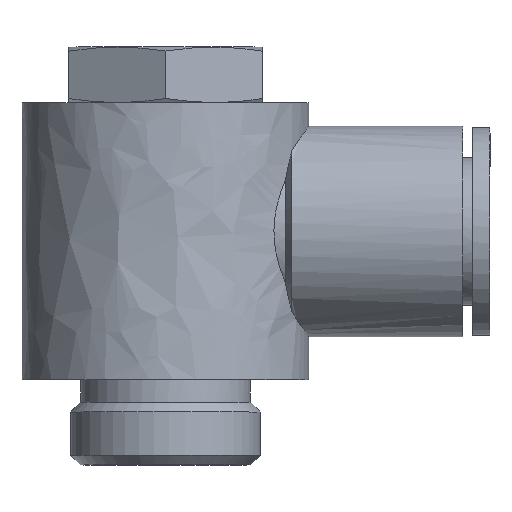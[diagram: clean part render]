
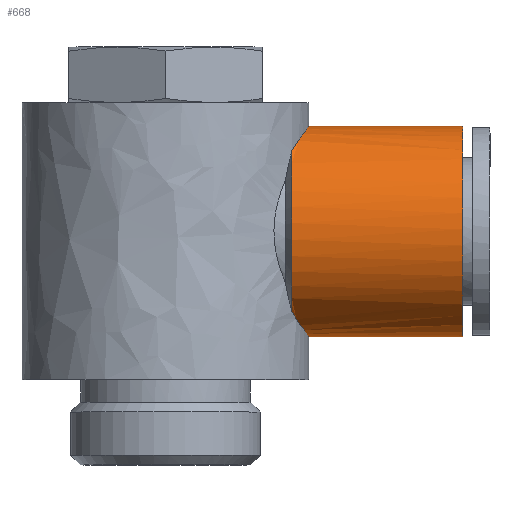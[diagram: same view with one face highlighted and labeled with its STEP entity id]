
A CAD part, top view. The second image highlights one B-rep face of the part: STEP entity #668.
In plain terms, the highlighted free-form (B-spline) face has degree [1, 3] with [2, 4] control points.
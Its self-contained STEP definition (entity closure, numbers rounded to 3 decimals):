
#10 = CARTESIAN_POINT ( 'NONE',  ( 12.116, 21.579, 3.459 ) ) ;
#30 = CARTESIAN_POINT ( 'NONE',  ( 11.773, 4.913, 4.491 ) ) ;
#143 = CARTESIAN_POINT ( 'NONE',  ( 12.054, 21.491, 3.674 ) ) ;
#155 = CARTESIAN_POINT ( 'NONE',  ( 12.142, 21.616, 3.366 ) ) ;
#164 = CARTESIAN_POINT ( 'NONE',  ( 11.1, 20.072, 5.962 ) ) ;
#176 = EDGE_CURVE ( 'NONE', #1003, #422, #725, .T. ) ;
#182 = CARTESIAN_POINT ( 'NONE',  ( 12.289, 4.178, 2.786 ) ) ;
#191 = CARTESIAN_POINT ( 'NONE',  ( 12.564, 3.799, 1.103 ) ) ;
#213 = CARTESIAN_POINT ( 'NONE',  ( 11.513, 5.294, 5.143 ) ) ;
#224 = CARTESIAN_POINT ( 'NONE',  ( 11.85, 4.8, 4.285 ) ) ;
#267 = CARTESIAN_POINT ( 'NONE',  ( 11.674, 20.942, 4.742 ) ) ;
#346 = CARTESIAN_POINT ( 'NONE',  ( 11.1, 20.072, 5.962 ) ) ;
#355 = CARTESIAN_POINT ( 'NONE',  ( 11.1, 22.25, 0. ) ) ;
#359 = B_SPLINE_CURVE_WITH_KNOTS ( 'NONE', 3,
 ( #1052, #1783, #191, #498, #788, #1043, #182, #1345, #1356, #1652, #1517, #944, #1214, #1224, #224, #30, #1641, #1674, #912, #213, #756, #923 ),
 .UNSPECIFIED., .F., .F.,
 ( 4, 2, 2, 1, 1, 2, 2, 2, 1, 1, 2, 2, 4 ),
 ( 0., 0.25, 0.375, 0.437, 0.469, 0.484, 0.5, 0.625, 0.687, 0.719, 0.734, 0.75, 1. ),
 .UNSPECIFIED. ) ;
#384 = CARTESIAN_POINT ( 'NONE',  ( 12.6, 22.25, 0. ) ) ;
#391 = EDGE_CURVE ( 'NONE', #578, #1550, #896, .T. ) ;
#394 = VERTEX_POINT ( 'NONE', #1547 ) ;
#422 = VERTEX_POINT ( 'NONE', #1651 ) ;
#424 = CARTESIAN_POINT ( 'NONE',  ( 11.461, 20.627, 5.236 ) ) ;
#458 = CARTESIAN_POINT ( 'NONE',  ( 26.1, 3.75, 18.5 ) ) ;
#485 = CARTESIAN_POINT ( 'NONE',  ( 11.1, 20.072, 5.962 ) ) ;
#498 = CARTESIAN_POINT ( 'NONE',  ( 12.456, 3.946, 1.917 ) ) ;
#529 = CARTESIAN_POINT ( 'NONE',  ( 26.1, 22.25, 0. ) ) ;
#576 = ORIENTED_EDGE ( 'NONE', *, *, #1538, .F. ) ;
#578 = VERTEX_POINT ( 'NONE', #529 ) ;
#668 = ADVANCED_FACE ( 'NONE', ( #1036 ), #1510, .T. ) ;
#716 = CARTESIAN_POINT ( 'NONE',  ( 11.605, 20.841, 4.908 ) ) ;
#725 =( BOUNDED_CURVE ( )  B_SPLINE_CURVE ( 3, ( #346, #1207, #1192, #1028 ),
 .UNSPECIFIED., .F., .T. ) 
 B_SPLINE_CURVE_WITH_KNOTS ( ( 4, 4 ),
 ( 0., 1. ),
 .UNSPECIFIED. ) 
 CURVE ( )  GEOMETRIC_REPRESENTATION_ITEM ( )  RATIONAL_B_SPLINE_CURVE ( ( 1., 0.763, 0.763, 1. ) ) 
 REPRESENTATION_ITEM ( '' )  );
#734 = CARTESIAN_POINT ( 'NONE',  ( 26.1, 22.25, 18.5 ) ) ;
#738 = CARTESIAN_POINT ( 'NONE',  ( 12.6, 22.25, 0. ) ) ;
#756 = CARTESIAN_POINT ( 'NONE',  ( 11.313, 5.593, 5.565 ) ) ;
#788 = CARTESIAN_POINT ( 'NONE',  ( 12.412, 4.007, 2.186 ) ) ;
#841 = CARTESIAN_POINT ( 'NONE',  ( 12.454, 22.054, 2.197 ) ) ;
#850 = CARTESIAN_POINT ( 'NONE',  ( 12.6, 22.25, 1.104 ) ) ;
#863 = CARTESIAN_POINT ( 'NONE',  ( 26.1, 3.75, 0. ) ) ;
#871 = VERTEX_POINT ( 'NONE', #863 ) ;
#874 = CARTESIAN_POINT ( 'NONE',  ( 11.651, 20.909, 4.797 ) ) ;
#896 = B_SPLINE_CURVE_WITH_KNOTS ( 'NONE', 1,
 ( #955, #384 ),
 .UNSPECIFIED., .F., .F.,
 ( 2, 2 ),
 ( 0., 0.9 ),
 .UNSPECIFIED. ) ;
#912 = CARTESIAN_POINT ( 'NONE',  ( 11.704, 5.014, 4.668 ) ) ;
#923 = CARTESIAN_POINT ( 'NONE',  ( 11.1, 5.928, 5.962 ) ) ;
#926 = CARTESIAN_POINT ( 'NONE',  ( 11.1, 22.25, 18.5 ) ) ;
#930 = EDGE_CURVE ( 'NONE', #394, #422, #359, .T. ) ;
#944 = CARTESIAN_POINT ( 'NONE',  ( 12.108, 4.432, 3.497 ) ) ;
#955 = CARTESIAN_POINT ( 'NONE',  ( 26.1, 22.25, 0. ) ) ;
#988 = CARTESIAN_POINT ( 'NONE',  ( 12.159, 21.64, 3.304 ) ) ;
#1003 = VERTEX_POINT ( 'NONE', #485 ) ;
#1017 = CARTESIAN_POINT ( 'NONE',  ( 11.312, 20.401, 5.555 ) ) ;
#1026 = CARTESIAN_POINT ( 'NONE',  ( 12.167, 21.651, 3.274 ) ) ;
#1028 = CARTESIAN_POINT ( 'NONE',  ( 11.1, 5.928, 5.962 ) ) ;
#1036 = FACE_OUTER_BOUND ( 'NONE', #1165, .T. ) ;
#1043 = CARTESIAN_POINT ( 'NONE',  ( 12.332, 4.118, 2.587 ) ) ;
#1052 = CARTESIAN_POINT ( 'NONE',  ( 12.6, 3.75, 0. ) ) ;
#1165 = EDGE_LOOP ( 'NONE', ( #1302, #1392, #1747, #576, #1373, #1238 ) ) ;
#1176 = CARTESIAN_POINT ( 'NONE',  ( 26.1, 3.75, 18.5 ) ) ;
#1192 = CARTESIAN_POINT ( 'NONE',  ( 11.1, 9.911, 10.686 ) ) ;
#1201 = CARTESIAN_POINT ( 'NONE',  ( 26.1, 3.75, 0. ) ) ;
#1207 = CARTESIAN_POINT ( 'NONE',  ( 11.1, 16.089, 10.686 ) ) ;
#1214 = CARTESIAN_POINT ( 'NONE',  ( 12.034, 4.537, 3.743 ) ) ;
#1217 = CARTESIAN_POINT ( 'NONE',  ( 11.1, 3.75, 0. ) ) ;
#1224 = CARTESIAN_POINT ( 'NONE',  ( 11.913, 4.71, 4.105 ) ) ;
#1238 = ORIENTED_EDGE ( 'NONE', *, *, #930, .F. ) ;
#1302 = ORIENTED_EDGE ( 'NONE', *, *, #1584, .F. ) ;
#1317 = CARTESIAN_POINT ( 'NONE',  ( 11.208, 20.241, 5.762 ) ) ;
#1319 = B_SPLINE_CURVE_WITH_KNOTS ( 'NONE', 1,
 ( #1751, #1593 ),
 .UNSPECIFIED., .F., .F.,
 ( 2, 2 ),
 ( 0., 0.9 ),
 .UNSPECIFIED. ) ;
#1345 = CARTESIAN_POINT ( 'NONE',  ( 12.234, 4.255, 3.017 ) ) ;
#1353 = EDGE_CURVE ( 'NONE', #871, #578, #1763, .T. ) ;
#1356 = CARTESIAN_POINT ( 'NONE',  ( 12.209, 4.29, 3.115 ) ) ;
#1373 = ORIENTED_EDGE ( 'NONE', *, *, #176, .T. ) ;
#1392 = ORIENTED_EDGE ( 'NONE', *, *, #1353, .T. ) ;
#1435 = CARTESIAN_POINT ( 'NONE',  ( 12.6, 22.25, 0. ) ) ;
#1456 = CARTESIAN_POINT ( 'NONE',  ( 11.789, 21.112, 4.453 ) ) ;
#1468 = CARTESIAN_POINT ( 'NONE',  ( 26.1, 22.25, 18.5 ) ) ;
#1494 = CARTESIAN_POINT ( 'NONE',  ( 26.1, 3.75, 0. ) ) ;
#1510 =( BOUNDED_SURFACE ( )  B_SPLINE_SURFACE ( 1, 3, ( 
 ( #1616, #1468, #458, #1494 ),
 ( #355, #926, #1665, #1217 ) ),
 .UNSPECIFIED., .F., .F., .F. ) 
 B_SPLINE_SURFACE_WITH_KNOTS ( ( 2, 2 ),
 ( 4, 4 ),
 ( 0., 1. ),
 ( 0., 1. ),
 .UNSPECIFIED. ) 
 GEOMETRIC_REPRESENTATION_ITEM ( )  RATIONAL_B_SPLINE_SURFACE ( (
 ( 1., 0.333, 0.333, 1.),
 ( 1., 0.333, 0.333, 1.) ) ) 
 REPRESENTATION_ITEM ( '' )  SURFACE ( )  );
#1517 = CARTESIAN_POINT ( 'NONE',  ( 12.183, 4.327, 3.215 ) ) ;
#1538 = EDGE_CURVE ( 'NONE', #1003, #1550, #1671, .T. ) ;
#1547 = CARTESIAN_POINT ( 'NONE',  ( 12.6, 3.75, 0. ) ) ;
#1550 = VERTEX_POINT ( 'NONE', #738 ) ;
#1582 = CARTESIAN_POINT ( 'NONE',  ( 11.876, 21.237, 4.217 ) ) ;
#1584 = EDGE_CURVE ( 'NONE', #871, #394, #1319, .T. ) ;
#1593 = CARTESIAN_POINT ( 'NONE',  ( 12.6, 3.75, 0. ) ) ;
#1604 = CARTESIAN_POINT ( 'NONE',  ( 11.534, 20.736, 5.074 ) ) ;
#1616 = CARTESIAN_POINT ( 'NONE',  ( 26.1, 22.25, 0. ) ) ;
#1641 = CARTESIAN_POINT ( 'NONE',  ( 11.739, 4.963, 4.579 ) ) ;
#1651 = CARTESIAN_POINT ( 'NONE',  ( 11.1, 5.928, 5.962 ) ) ;
#1652 = CARTESIAN_POINT ( 'NONE',  ( 12.192, 4.314, 3.181 ) ) ;
#1665 = CARTESIAN_POINT ( 'NONE',  ( 11.1, 3.75, 18.5 ) ) ;
#1671 = B_SPLINE_CURVE_WITH_KNOTS ( 'NONE', 3,
 ( #164, #1317, #1017, #424, #1604, #716, #874, #267, #1456, #1582, #1721, #143, #10, #155, #988, #1026, #841, #850, #1435 ),
 .UNSPECIFIED., .F., .F.,
 ( 4, 2, 1, 2, 2, 2, 1, 1, 2, 2, 4 ),
 ( 0., 0.125, 0.187, 0.219, 0.25, 0.375, 0.437, 0.469, 0.484, 0.5, 1. ),
 .UNSPECIFIED. ) ;
#1674 = CARTESIAN_POINT ( 'NONE',  ( 11.716, 4.996, 4.637 ) ) ;
#1721 = CARTESIAN_POINT ( 'NONE',  ( 11.996, 21.409, 3.856 ) ) ;
#1747 = ORIENTED_EDGE ( 'NONE', *, *, #391, .T. ) ;
#1751 = CARTESIAN_POINT ( 'NONE',  ( 26.1, 3.75, 0. ) ) ;
#1763 =( BOUNDED_CURVE ( )  B_SPLINE_CURVE ( 3, ( #1201, #1176, #734, #1805 ),
 .UNSPECIFIED., .F., .T. ) 
 B_SPLINE_CURVE_WITH_KNOTS ( ( 4, 4 ),
 ( 0.5, 1. ),
 .UNSPECIFIED. ) 
 CURVE ( )  GEOMETRIC_REPRESENTATION_ITEM ( )  RATIONAL_B_SPLINE_CURVE ( ( 1., 0.333, 0.333, 1. ) ) 
 REPRESENTATION_ITEM ( '' )  );
#1783 = CARTESIAN_POINT ( 'NONE',  ( 12.6, 3.75, 0.553 ) ) ;
#1805 = CARTESIAN_POINT ( 'NONE',  ( 26.1, 22.25, 0. ) ) ;
